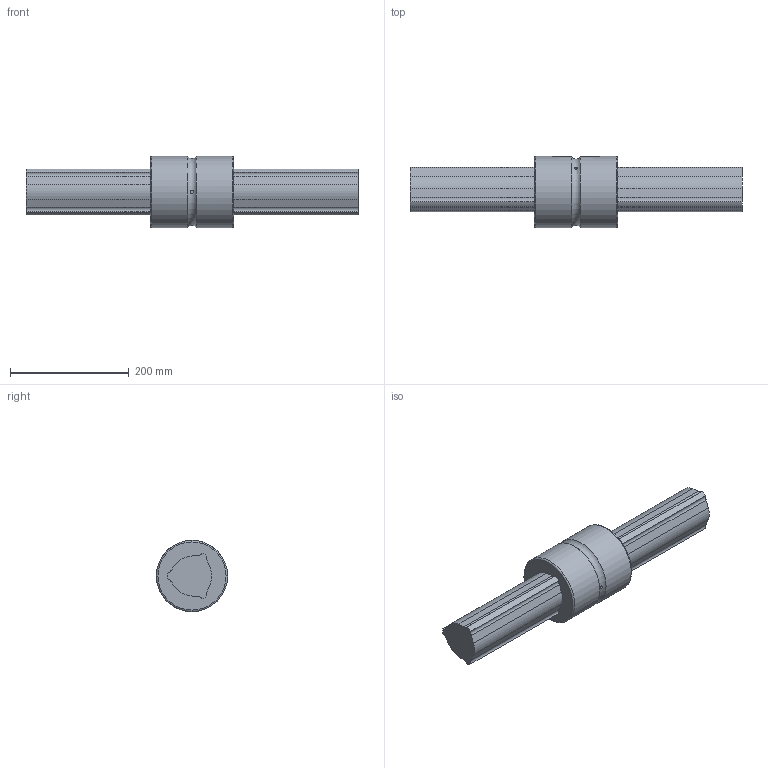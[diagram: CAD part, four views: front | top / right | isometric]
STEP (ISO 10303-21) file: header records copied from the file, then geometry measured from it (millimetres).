
FILE_DESCRIPTION(/* description */ ('STEP AP203'),/* implementation_level */ '2;1');
FILE_NAME(/* name */ 'LBS85+560L(1402100)',/* time_stamp */ '2024-05-23T11:58:43+02:00',/* author */ ('License CC BY-ND 4.0'),/* organization */ ('CADENAS'),/* preprocessor_version */ 'ST-DEVELOPER v19.3',/* originating_system */ 'PARTsolutions',/* authorisation */ ' ');
FILE_SCHEMA (('CONFIG_CONTROL_DESIGN'));
Length unit declared in the file: millimetre
Products named in the file (3): LBS85+560L(1402100); LBS85 Nut; LBS851560 Spline Shaft
Assembly tree (2 placements, depth 2):
  LBS85+560L(1402100)
    LBS85 Nut
    LBS851560 Spline Shaft
Bounding box: 560 x 120 x 120 mm (x, y, z)
Volume: 3226832.8 mm3; surface area: 247816.2 mm2
Topology: 3 solids, 3 shells, 57 faces, 148 edges, 99 vertices
Faces by surface type: cylinder 31, plane 22, torus 4
Full cylindrical faces by diameter (mm): 5 x3, 120 x2
Entity records: 1806 total; most frequent: CARTESIAN_POINT 351, DIRECTION 306, ORIENTED_EDGE 272, EDGE_CURVE 136, AXIS2_PLACEMENT_3D 118, VERTEX_POINT 94, LINE 70, VECTOR 70
